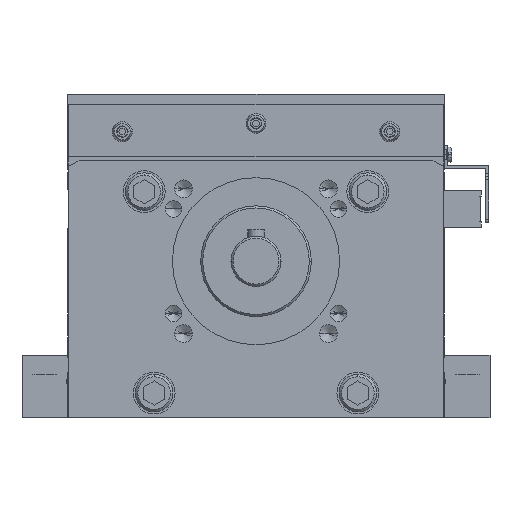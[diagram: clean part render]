
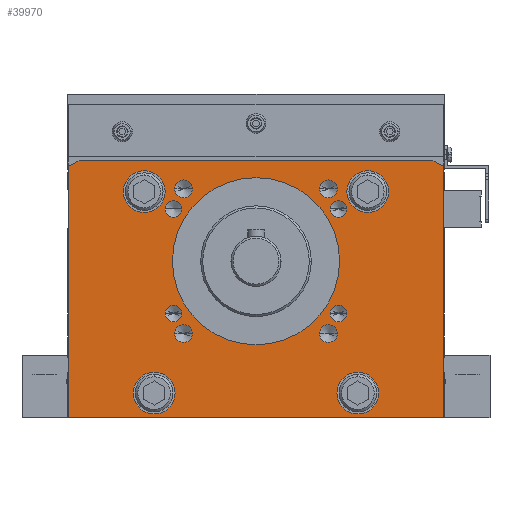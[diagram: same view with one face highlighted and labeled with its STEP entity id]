
A CAD part, front view. The second image highlights one B-rep face of the part: STEP entity #39970.
In plain terms, the highlighted planar face has unit normal (0, -1, 0) as drawn and (0, 0, -1) by its records, which use the part's own axes.
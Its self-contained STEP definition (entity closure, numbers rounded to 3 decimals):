
#60=CARTESIAN_POINT('',(145.697,49.139,-75.));
#70=DIRECTION('',(0.,1.,0.));
#80=VECTOR('',#70,1.);
#90=LINE('',#60,#80);
#100=CARTESIAN_POINT('',(145.697,49.139,-75.));
#110=VERTEX_POINT('',#100);
#120=CARTESIAN_POINT('',(145.697,169.339,-75.));
#130=VERTEX_POINT('',#120);
#140=EDGE_CURVE('',#110,#130,#90,.T.);
#36350=CARTESIAN_POINT('',(20.497,98.839,-75.));
#36360=VERTEX_POINT('',#36350);
#36520=CARTESIAN_POINT('',(12.497,98.839,-75.));
#36530=VERTEX_POINT('',#36520);
#36560=CARTESIAN_POINT('',(16.497,98.839,-75.));
#36570=DIRECTION('',(0.,0.,-1.));
#36580=DIRECTION('',(1.,0.,0.));
#36590=AXIS2_PLACEMENT_3D('',#36560,#36570,#36580);
#36600=CIRCLE('',#36590,4.);
#36610=EDGE_CURVE('',#36360,#36530,#36600,.T.);
#36770=CARTESIAN_POINT('',(-33.703,49.139,-75.));
#36780=VERTEX_POINT('',#36770);
#37640=CARTESIAN_POINT('',(-33.703,49.139,-75.));
#37650=DIRECTION('',(1.,0.,0.));
#37660=VECTOR('',#37650,1.);
#37670=LINE('',#37640,#37660);
#37680=EDGE_CURVE('',#36780,#110,#37670,.T.);
#37730=CARTESIAN_POINT('',(111.994,0.,-75.));
#37740=DIRECTION('',(0.,0.,-1.));
#37750=DIRECTION('',(-1.,0.,0.));
#37760=AXIS2_PLACEMENT_3D('',#37730,#37740,#37750);
#37770=PLANE('',#37760);
#37780=ORIENTED_EDGE('',*,*,#37680,.F.);
#37790=ORIENTED_EDGE('',*,*,#140,.F.);
#37800=CARTESIAN_POINT('',(140.697,171.839,-75.));
#37810=DIRECTION('',(0.894,-0.447,0.));
#37820=VECTOR('',#37810,1.);
#37830=LINE('',#37800,#37820);
#37840=CARTESIAN_POINT('',(140.697,171.839,-75.));
#37850=VERTEX_POINT('',#37840);
#37860=EDGE_CURVE('',#37850,#130,#37830,.T.);
#37870=ORIENTED_EDGE('',*,*,#37860,.T.);
#37880=CARTESIAN_POINT('',(-28.703,171.839,-75.));
#37890=DIRECTION('',(1.,0.,0.));
#37900=VECTOR('',#37890,1.);
#37910=LINE('',#37880,#37900);
#37920=CARTESIAN_POINT('',(-28.703,171.839,-75.));
#37930=VERTEX_POINT('',#37920);
#37940=EDGE_CURVE('',#37930,#37850,#37910,.T.);
#37950=ORIENTED_EDGE('',*,*,#37940,.T.);
#37960=CARTESIAN_POINT('',(-33.703,169.339,-75.));
#37970=DIRECTION('',(0.894,0.447,0.));
#37980=VECTOR('',#37970,1.);
#37990=LINE('',#37960,#37980);
#38000=CARTESIAN_POINT('',(-33.703,169.339,-75.));
#38010=VERTEX_POINT('',#38000);
#38020=EDGE_CURVE('',#38010,#37930,#37990,.T.);
#38030=ORIENTED_EDGE('',*,*,#38020,.T.);
#38040=CARTESIAN_POINT('',(-33.703,49.139,-75.));
#38050=DIRECTION('',(0.,1.,0.));
#38060=VECTOR('',#38050,1.);
#38070=LINE('',#38040,#38060);
#38080=EDGE_CURVE('',#36780,#38010,#38070,.T.);
#38090=ORIENTED_EDGE('',*,*,#38080,.T.);
#38100=EDGE_LOOP('',(#38090,#38030,#37950,#37870,#37790,#37780));
#38110=FACE_OUTER_BOUND('',#38100,.T.);
#38120=CARTESIAN_POINT('',(7.247,60.739,
-75.));
#38130=DIRECTION('',(0.,0.,1.));
#38140=DIRECTION('',(-1.,0.,0.));
#38150=AXIS2_PLACEMENT_3D('',#38120,#38130,#38140);
#38160=CIRCLE('',#38150,10.);
#38170=CARTESIAN_POINT('',(-2.753,60.739,-75.));
#38180=VERTEX_POINT('',#38170);
#38190=CARTESIAN_POINT('',(17.247,60.739,
-75.));
#38200=VERTEX_POINT('',#38190);
#38210=EDGE_CURVE('',#38180,#38200,#38160,.T.);
#38220=ORIENTED_EDGE('',*,*,#38210,.T.);
#38230=EDGE_CURVE('',#38200,#38180,#38160,.T.);
#38240=ORIENTED_EDGE('',*,*,#38230,.T.);
#38250=EDGE_LOOP('',(#38240,#38220));
#38260=FACE_BOUND('',#38250,.T.);
#38270=CARTESIAN_POINT('',(109.497,157.139,
-75.));
#38280=DIRECTION('',(0.,0.,1.));
#38290=DIRECTION('',(-1.,0.,0.));
#38300=AXIS2_PLACEMENT_3D('',#38270,#38280,#38290);
#38310=CIRCLE('',#38300,10.);
#38320=CARTESIAN_POINT('',(119.497,157.139,
-75.));
#38330=VERTEX_POINT('',#38320);
#38340=CARTESIAN_POINT('',(99.497,157.139,
-75.));
#38350=VERTEX_POINT('',#38340);
#38360=EDGE_CURVE('',#38330,#38350,#38310,.T.);
#38370=ORIENTED_EDGE('',*,*,#38360,.T.);
#38380=EDGE_CURVE('',#38350,#38330,#38310,.T.);
#38390=ORIENTED_EDGE('',*,*,#38380,.T.);
#38400=EDGE_LOOP('',(#38390,#38370));
#38410=FACE_BOUND('',#38400,.T.);
#38420=CARTESIAN_POINT('',(104.747,60.739,
-75.));
#38430=DIRECTION('',(0.,0.,1.));
#38440=DIRECTION('',(-1.,0.,0.));
#38450=AXIS2_PLACEMENT_3D('',#38420,#38430,#38440);
#38460=CIRCLE('',#38450,10.);
#38470=CARTESIAN_POINT('',(114.747,60.739,
-75.));
#38480=VERTEX_POINT('',#38470);
#38490=CARTESIAN_POINT('',(94.747,60.739,
-75.));
#38500=VERTEX_POINT('',#38490);
#38510=EDGE_CURVE('',#38480,#38500,#38460,.T.);
#38520=ORIENTED_EDGE('',*,*,#38510,.T.);
#38530=EDGE_CURVE('',#38500,#38480,#38460,.T.);
#38540=ORIENTED_EDGE('',*,*,#38530,.T.);
#38550=EDGE_LOOP('',(#38540,#38520));
#38560=FACE_BOUND('',#38550,.T.);
#38570=CARTESIAN_POINT('',(2.497,157.139,
-75.));
#38580=DIRECTION('',(0.,0.,1.));
#38590=DIRECTION('',(-1.,0.,0.));
#38600=AXIS2_PLACEMENT_3D('',#38570,#38580,#38590);
#38610=CIRCLE('',#38600,10.);
#38620=CARTESIAN_POINT('',(12.497,157.139,
-75.));
#38630=VERTEX_POINT('',#38620);
#38640=CARTESIAN_POINT('',(-7.503,157.139,
-75.));
#38650=VERTEX_POINT('',#38640);
#38660=EDGE_CURVE('',#38630,#38650,#38610,.T.);
#38670=ORIENTED_EDGE('',*,*,#38660,.T.);
#38680=EDGE_CURVE('',#38650,#38630,#38610,.T.);
#38690=ORIENTED_EDGE('',*,*,#38680,.T.);
#38700=EDGE_LOOP('',(#38690,#38670));
#38710=FACE_BOUND('',#38700,.T.);
#38720=CARTESIAN_POINT('',(55.997,123.839,-75.));
#38730=DIRECTION('',(0.,0.,1.));
#38740=DIRECTION('',(-1.,0.,0.));
#38750=AXIS2_PLACEMENT_3D('',#38720,#38730,#38740);
#38760=CIRCLE('',#38750,40.);
#38770=CARTESIAN_POINT('',(15.997,123.839,-75.));
#38780=VERTEX_POINT('',#38770);
#38790=CARTESIAN_POINT('',(95.997,123.839,-75.));
#38800=VERTEX_POINT('',#38790);
#38810=EDGE_CURVE('',#38780,#38800,#38760,.T.);
#38820=ORIENTED_EDGE('',*,*,#38810,.T.);
#38830=EDGE_CURVE('',#38800,#38780,#38760,.T.);
#38840=ORIENTED_EDGE('',*,*,#38830,.T.);
#38850=EDGE_LOOP('',(#38840,#38820));
#38860=FACE_BOUND('',#38850,.T.);
#38870=CARTESIAN_POINT('',(90.647,89.189,-75.));
#38880=DIRECTION('',(0.,0.,1.));
#38890=DIRECTION('',(-1.,0.,0.));
#38900=AXIS2_PLACEMENT_3D('',#38870,#38880,#38890);
#38910=CIRCLE('',#38900,4.25);
#38920=CARTESIAN_POINT('',(86.397,89.189,-75.));
#38930=VERTEX_POINT('',#38920);
#38940=CARTESIAN_POINT('',(94.897,89.189,-75.));
#38950=VERTEX_POINT('',#38940);
#38960=EDGE_CURVE('',#38930,#38950,#38910,.T.);
#38970=ORIENTED_EDGE('',*,*,#38960,.T.);
#38980=EDGE_CURVE('',#38950,#38930,#38910,.T.);
#38990=ORIENTED_EDGE('',*,*,#38980,.T.);
#39000=EDGE_LOOP('',(#38990,#38970));
#39010=FACE_BOUND('',#39000,.T.);
#39020=CARTESIAN_POINT('',(90.647,158.489,-75.));
#39030=DIRECTION('',(0.,0.,1.));
#39040=DIRECTION('',(-1.,0.,0.));
#39050=AXIS2_PLACEMENT_3D('',#39020,#39030,#39040);
#39060=CIRCLE('',#39050,4.25);
#39070=CARTESIAN_POINT('',(86.397,158.489,-75.));
#39080=VERTEX_POINT('',#39070);
#39090=CARTESIAN_POINT('',(94.897,158.489,-75.));
#39100=VERTEX_POINT('',#39090);
#39110=EDGE_CURVE('',#39080,#39100,#39060,.T.);
#39120=ORIENTED_EDGE('',*,*,#39110,.T.);
#39130=EDGE_CURVE('',#39100,#39080,#39060,.T.);
#39140=ORIENTED_EDGE('',*,*,#39130,.T.);
#39150=EDGE_LOOP('',(#39140,#39120));
#39160=FACE_BOUND('',#39150,.T.);
#39170=CARTESIAN_POINT('',(21.347,158.489,-75.));
#39180=DIRECTION('',(0.,0.,1.));
#39190=DIRECTION('',(-1.,0.,0.));
#39200=AXIS2_PLACEMENT_3D('',#39170,#39180,#39190);
#39210=CIRCLE('',#39200,4.25);
#39220=CARTESIAN_POINT('',(17.097,158.489,-75.));
#39230=VERTEX_POINT('',#39220);
#39240=CARTESIAN_POINT('',(25.597,158.489,-75.));
#39250=VERTEX_POINT('',#39240);
#39260=EDGE_CURVE('',#39230,#39250,#39210,.T.);
#39270=ORIENTED_EDGE('',*,*,#39260,.T.);
#39280=EDGE_CURVE('',#39250,#39230,#39210,.T.);
#39290=ORIENTED_EDGE('',*,*,#39280,.T.);
#39300=EDGE_LOOP('',(#39290,#39270));
#39310=FACE_BOUND('',#39300,.T.);
#39320=CARTESIAN_POINT('',(21.347,89.189,-75.));
#39330=DIRECTION('',(0.,0.,1.));
#39340=DIRECTION('',(-1.,0.,0.));
#39350=AXIS2_PLACEMENT_3D('',#39320,#39330,#39340);
#39360=CIRCLE('',#39350,4.25);
#39370=CARTESIAN_POINT('',(17.097,89.189,-75.));
#39380=VERTEX_POINT('',#39370);
#39390=CARTESIAN_POINT('',(25.597,89.189,-75.));
#39400=VERTEX_POINT('',#39390);
#39410=EDGE_CURVE('',#39380,#39400,#39360,.T.);
#39420=ORIENTED_EDGE('',*,*,#39410,.T.);
#39430=EDGE_CURVE('',#39400,#39380,#39360,.T.);
#39440=ORIENTED_EDGE('',*,*,#39430,.T.);
#39450=EDGE_LOOP('',(#39440,#39420));
#39460=FACE_BOUND('',#39450,.T.);
#39470=EDGE_CURVE('',#36530,#36360,#36600,.T.);
#39480=ORIENTED_EDGE('',*,*,#39470,.F.);
#39490=ORIENTED_EDGE('',*,*,#36610,.F.);
#39500=EDGE_LOOP('',(#39490,#39480));
#39510=FACE_BOUND('',#39500,.T.);
#39520=CARTESIAN_POINT('',(95.497,98.839,-75.));
#39530=DIRECTION('',(0.,0.,1.));
#39540=DIRECTION('',(1.,0.,0.));
#39550=AXIS2_PLACEMENT_3D('',#39520,#39530,#39540);
#39560=CIRCLE('',#39550,4.);
#39570=CARTESIAN_POINT('',(91.497,98.839,-75.));
#39580=VERTEX_POINT('',#39570);
#39590=CARTESIAN_POINT('',(99.497,98.839,-75.));
#39600=VERTEX_POINT('',#39590);
#39610=EDGE_CURVE('',#39580,#39600,#39560,.T.);
#39620=ORIENTED_EDGE('',*,*,#39610,.T.);
#39630=EDGE_CURVE('',#39600,#39580,#39560,.T.);
#39640=ORIENTED_EDGE('',*,*,#39630,.T.);
#39650=EDGE_LOOP('',(#39640,#39620));
#39660=FACE_BOUND('',#39650,.T.);
#39670=CARTESIAN_POINT('',(95.497,148.839,-75.));
#39680=DIRECTION('',(0.,0.,1.));
#39690=DIRECTION('',(1.,0.,0.));
#39700=AXIS2_PLACEMENT_3D('',#39670,#39680,#39690);
#39710=CIRCLE('',#39700,4.);
#39720=CARTESIAN_POINT('',(99.497,148.839,-75.));
#39730=VERTEX_POINT('',#39720);
#39740=CARTESIAN_POINT('',(91.497,148.839,-75.));
#39750=VERTEX_POINT('',#39740);
#39760=EDGE_CURVE('',#39730,#39750,#39710,.T.);
#39770=ORIENTED_EDGE('',*,*,#39760,.T.);
#39780=EDGE_CURVE('',#39750,#39730,#39710,.T.);
#39790=ORIENTED_EDGE('',*,*,#39780,.T.);
#39800=EDGE_LOOP('',(#39790,#39770));
#39810=FACE_BOUND('',#39800,.T.);
#39820=CARTESIAN_POINT('',(16.497,148.839,-75.));
#39830=DIRECTION('',(0.,0.,1.));
#39840=DIRECTION('',(1.,0.,0.));
#39850=AXIS2_PLACEMENT_3D('',#39820,#39830,#39840);
#39860=CIRCLE('',#39850,4.);
#39870=CARTESIAN_POINT('',(12.497,148.839,-75.));
#39880=VERTEX_POINT('',#39870);
#39890=CARTESIAN_POINT('',(20.497,148.839,-75.));
#39900=VERTEX_POINT('',#39890);
#39910=EDGE_CURVE('',#39880,#39900,#39860,.T.);
#39920=ORIENTED_EDGE('',*,*,#39910,.T.);
#39930=EDGE_CURVE('',#39900,#39880,#39860,.T.);
#39940=ORIENTED_EDGE('',*,*,#39930,.T.);
#39950=EDGE_LOOP('',(#39940,#39920));
#39960=FACE_BOUND('',#39950,.T.);
#39970=ADVANCED_FACE('',(#38110,#38260,#38410,#38560,#38710,#38860,
#39010,#39160,#39310,#39460,#39510,#39660,#39810,#39960),#37770,.T.);
